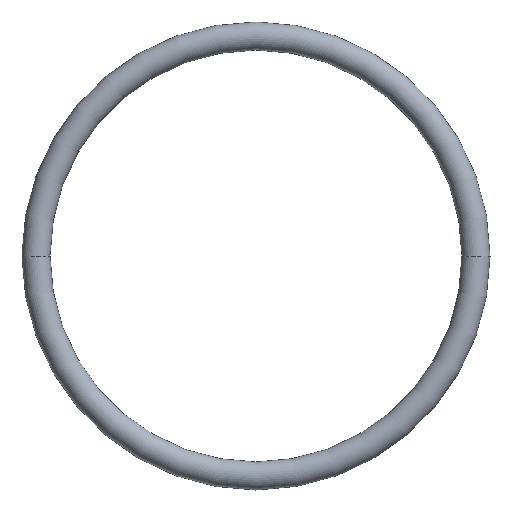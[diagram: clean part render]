
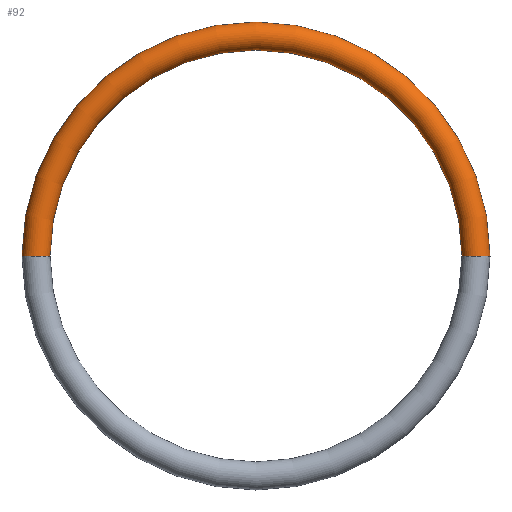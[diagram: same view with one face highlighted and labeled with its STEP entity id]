
A CAD part, front view. The second image highlights one B-rep face of the part: STEP entity #92.
In plain terms, the highlighted toroidal (fillet/blend) face has major radius 11.75 mm and minor radius 0.75 mm.
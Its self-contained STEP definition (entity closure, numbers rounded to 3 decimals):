
#11=CARTESIAN_POINT('',(0.,0.,0.));
#12=DIRECTION('',(0.,1.,0.));
#13=DIRECTION('',(-1.,0.,0.));
#14=AXIS2_PLACEMENT_3D('',#11,#12,#13);
#21=CARTESIAN_POINT('',(-11.75,0.,0.));
#22=DIRECTION('',(0.,0.,1.));
#23=DIRECTION('',(-1.,0.,0.));
#24=AXIS2_PLACEMENT_3D('',#21,#22,#23);
#26=CARTESIAN_POINT('',(0.,0.,0.));
#27=DIRECTION('',(0.,1.,0.));
#28=DIRECTION('',(-1.,0.,0.));
#29=AXIS2_PLACEMENT_3D('',#26,#27,#28);
#31=CARTESIAN_POINT('',(11.75,0.,0.));
#32=DIRECTION('',(0.,0.,-1.));
#33=DIRECTION('',(1.,0.,0.));
#34=AXIS2_PLACEMENT_3D('',#31,#32,#33);
#41=CARTESIAN_POINT('',(-11.,0.,0.));
#42=CARTESIAN_POINT('',(-12.5,0.,0.));
#43=VERTEX_POINT('',#41);
#44=VERTEX_POINT('',#42);
#45=CARTESIAN_POINT('',(11.,0.,0.));
#46=CARTESIAN_POINT('',(12.5,0.,0.));
#47=VERTEX_POINT('',#45);
#48=VERTEX_POINT('',#46);
#79=CARTESIAN_POINT('',(0.,0.,0.));
#80=DIRECTION('',(0.,-1.,0.));
#81=DIRECTION('',(-1.,0.,0.));
#82=AXIS2_PLACEMENT_3D('',#79,#80,#81);
#83=TOROIDAL_SURFACE('',#82,11.75,0.75);
#85=ORIENTED_EDGE('',*,*,#84,.F.);
#86=ORIENTED_EDGE('',*,*,#74,.T.);
#88=ORIENTED_EDGE('',*,*,#87,.T.);
#89=ORIENTED_EDGE('',*,*,#71,.F.);
#90=EDGE_LOOP('',(#85,#86,#88,#89));
#91=FACE_OUTER_BOUND('',#90,.F.);
#92=ADVANCED_FACE('',(#91),#83,.T.);
#15=CIRCLE('',#14,11.);
#25=CIRCLE('',#24,0.75);
#30=CIRCLE('',#29,12.5);
#35=CIRCLE('',#34,0.75);
#71=EDGE_CURVE('',#43,#47,#15,.T.);
#74=EDGE_CURVE('',#44,#48,#30,.T.);
#84=EDGE_CURVE('',#44,#43,#25,.T.);
#87=EDGE_CURVE('',#48,#47,#35,.T.);
